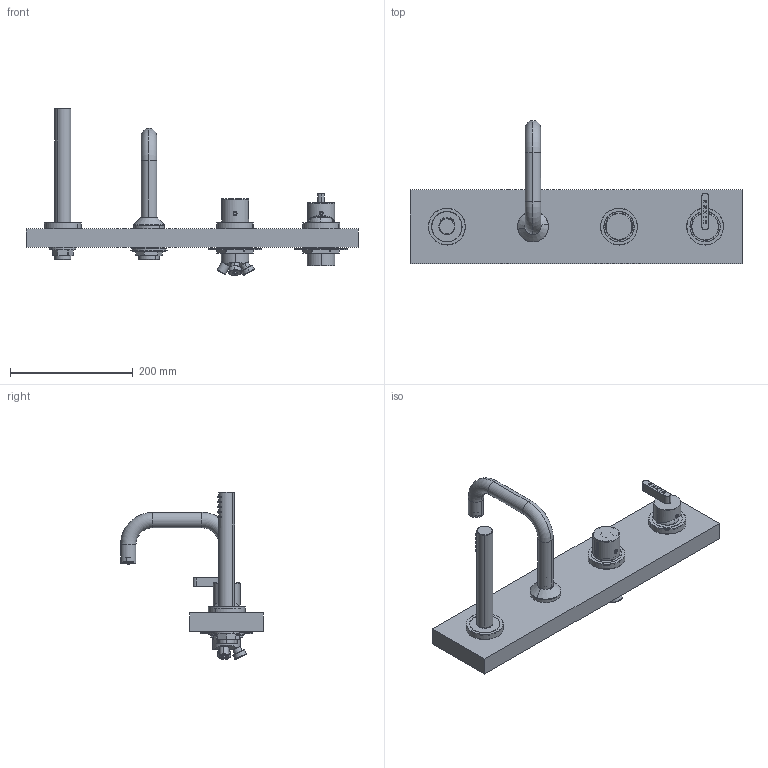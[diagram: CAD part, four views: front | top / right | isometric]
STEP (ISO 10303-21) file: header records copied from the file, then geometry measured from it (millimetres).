
FILE_DESCRIPTION (( 'STEP AP203' ), '1' );
FILE_NAME ('B4K1.STEP', '2025-06-06T13:30:57', ( '' ), ( '' ), 'SwSTEP 2.0', 'SolidWorks 2024', '' );
FILE_SCHEMA (( 'CONFIG_CONTROL_DESIGN' ));
Length unit declared in the file: millimetre
Products named in the file (47): C12.00.0043; FISSGECO001; AS568_00; C12.00.0052; C21.2390.00.0; C13.00.0065; C24.0341.00.0; DADORON000; C47.00.0015; C10.00.0011; C11.10.0025; C11.14.0007; C25.0162.00.0; AS816_00; C24.2033.00.0; C10.00.0015; eu01_dado_esa_x_codolo; C12.00.0004; C12.00.0062; EU0238_0; AS569_00; C24.2045.00.0; eu01_rondella_gomma; C11.14.0009; C24.0197.00.1; C24.0235.00.0_Default<A macchina>; C11.14.0003; C24.1472.00.0; eu01_flangia_sagomata; OR402NBR; C24.0121.00.0; C24.2040.00.0; C24.2035.00.0; RONDG 57502; C11.15.0006; B4K1; C47.00.0023.01; BORDO VASCA 4 FORI; C24.0657.00.0_Default<A macchina>; CTK1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
Assembly tree (61 placements, depth 4):
  B4K1
    BORDO VASCA 4 FORI
    AS568_00
      C12.00.0043  x2
      C24.0121.00.0
      C24.0235.00.0_Default<A macchina>
      C10.00.0011
      C47.00.0015
      C31.00.0006.01
      C24.0341.00.0
      C11.14.0009
      C25.0162.00.0  x2
      C25.0216.00.0
      C47.00.0023.01
    AS853_00
      C24.0657.00.0_Default<A macchina>
      C24.0121.00.0
      C47.00.0015
      C10.00.0015
      C12.00.0043  x2
      C31.00.0006.01
      C47.00.0023.01
      AS816_00
        C24.2035.00.0
        C11.15.0006
        C11.10.0025
        C24.2033.00.0
      C11.14.0003
    CTK1
      C24.2041.00.0
      C12.00.0004
      C24.2040.00.0
      C24.1472.00.0
      C24.2045.00.0
      C12.00.0052
      C12.00.0062  x2
      C13.00.0065
      C21.2390.00.0
      C11.14.0007
    AS569_00
      C24.0197.00.1
      C24.0121.00.0
      C12.00.0043  x2
    DOC8
    RONDG 57502  x2
    RONDIX  8549  x2
    EU0238_0  x2
    DADORON000
    FISSGECO001
      eu01_flangia_sagomata
      eu01_rondella_gomma
      eu01_rondella_gomma_spugna
      eu01_dado_esa_x_codolo
    OR402NBR
Bounding box: 540 x 232.5 x 271.83 mm (x, y, z)
Volume: 2353520 mm3; surface area: 467429.8 mm2
Topology: 61 solids, 62 shells, 1779 faces, 4018 edges, 2488 vertices
Faces by surface type: cylinder 623, plane 589, cone 343, torus 130, bspline 86, sphere 8
Entity records: 52562 total; most frequent: CARTESIAN_POINT 12006, DIRECTION 7930, ORIENTED_EDGE 6882, EDGE_CURVE 3441, AXIS2_PLACEMENT_3D 3183, VERTEX_POINT 2150, EDGE_LOOP 1751, CIRCLE 1627
